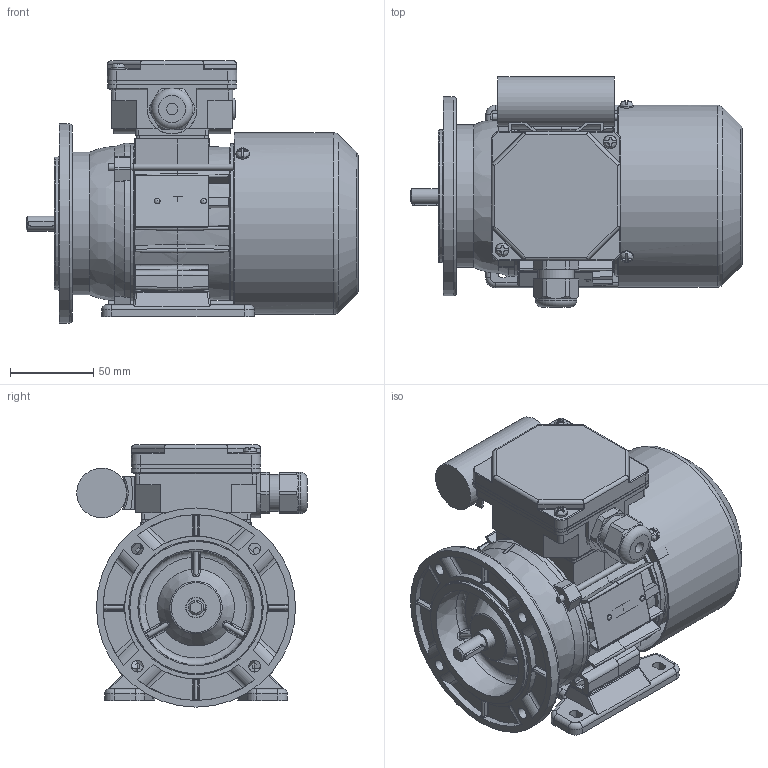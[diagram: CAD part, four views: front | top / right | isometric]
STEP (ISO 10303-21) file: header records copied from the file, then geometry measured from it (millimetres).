
FILE_DESCRIPTION( ( 'Unknown' ), '1' );
FILE_NAME( 'G:/Poczta Tk-1/STP/w.m.56/SEh56/SE(M)Lh56-C.stp', 'Unknown', ( 'K. Szlosek' ), ( 'BESEL S.A.' ), 'PSStep 17.0.49', 'Unknown', ' ' );
FILE_SCHEMA( ( 'AUTOMOTIVE_DESIGN { 1 0 10303 214 1 1 1 1 }' ) );
Length unit declared in the file: millimetre
Products named in the file (32): Assem1; K4-2320 Uszczelka nr 1 Sh71,80; K3-2193 Tarcza łożyskowa P Sg56-2..; K2-0860 Pokrywka skrzynki zaciskowej; Wpust A3x3x16; K3-2977 Osłona przewietrznika Sg56; K4-2820 Uszczelka nr 2 Sh71,80; Wkręt samogwintujący M4x8; Wkręt samogwintujący M4x16; K2-0879 Przewietrznik Sg56; Nitokołek A 2x6; K3-9440 Podstawa  skrzynki zaciskowej SEhR71-D; K4-0898 Tulejka uszczelniająca; K3-1974 Uchwyt kondensatora (mały); Kondensator bb 8uF; K1-0484 Łapa Sg56-.. w. robocza; K3-9987 kadłub ze stojanem Sh56-C; K3-9990 wał Sh56-C; K1-0512 Tarcza kołnierzowa B5  SKg56-..; Śruba ściągająca E_M4x85; Tabliczka znamionowa 32x44; Dławnica M20x1,5; Łożysko 6201
Assembly tree (47 placements, depth 2):
  Assem1
    K4-2320 Uszczelka nr 1 Sh71,80
    K3-2193 Tarcza łożyskowa P Sg56-2..
    K2-0860 Pokrywka skrzynki zaciskowej
    Wpust A3x3x16
    K3-2977 Osłona przewietrznika Sg56
    K4-2820 Uszczelka nr 2 Sh71,80
    Wkręt samogwintujący M4x8  x3
    Wkręt samogwintujący M4x16  x2
    K2-0879 Przewietrznik Sg56
    Nitokołek A 2x6  x2
    K3-9440 Podstawa  skrzynki zaciskowej SEhR71-D
    K4-0898 Tulejka uszczelniająca
    K3-1974 Uchwyt kondensatora (mały)
    Kondensator bb 8uF
    K1-0484 Łapa Sg56-.. w. robocza
    K3-9987 kadłub ze stojanem Sh56-C
    K3-9990 wał Sh56-C
    K1-0512 Tarcza kołnierzowa B5  SKg56-..
    Śruba ściągająca E_M4x85  x3
    Tabliczka znamionowa 32x44
    Dławnica M20x1,5
    Łożysko 6201  x2
    Łożysko 6201  x2
    Łożysko 6201  x2
    Łożysko 6201  x2
    Łożysko 6201  x2
    Łożysko 6201  x2
    Łożysko 6201  x2
    Łożysko 6201  x2
    Łożysko 6201  x2
    Łożysko 6201  x2
Bounding box: 200 x 138.82 x 158 mm (x, y, z)
Volume: 548734.8 mm3; surface area: 340896.9 mm2
Topology: 47 solids, 63 shells, 1990 faces, 5355 edges, 3456 vertices
Faces by surface type: plane 1017, cylinder 606, bspline 119, torus 110, cone 104, sphere 34
Full cylindrical faces by diameter (mm): 2 x2, 2.4 x2, 3 x1, 3.3 x3, 3.5 x2, 3.7 x10, 4 x8, 4.5 x4, 4.6 x1, 4.8 x4, 5 x4, 5.8 x4, 6.5 x1, 7 x8, 8 x6, 9 x1, 10 x2, 10.9 x1, 11 x1, 11.5 x1, 11.8 x2, 12 x4, 12.4 x2, 15.5 x1, 16 x1, 16.1 x1, 17 x2, 18 x1, 18.38 x1, 18.5 x1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
Entity records: 87325 total; most frequent: CARTESIAN_POINT 28061, ORIENTED_EDGE 9304, DIRECTION 9218, EDGE_CURVE 4652, AXIS2_PLACEMENT_3D 3402, VERTEX_POINT 3136, LINE 2414, VECTOR 2414
